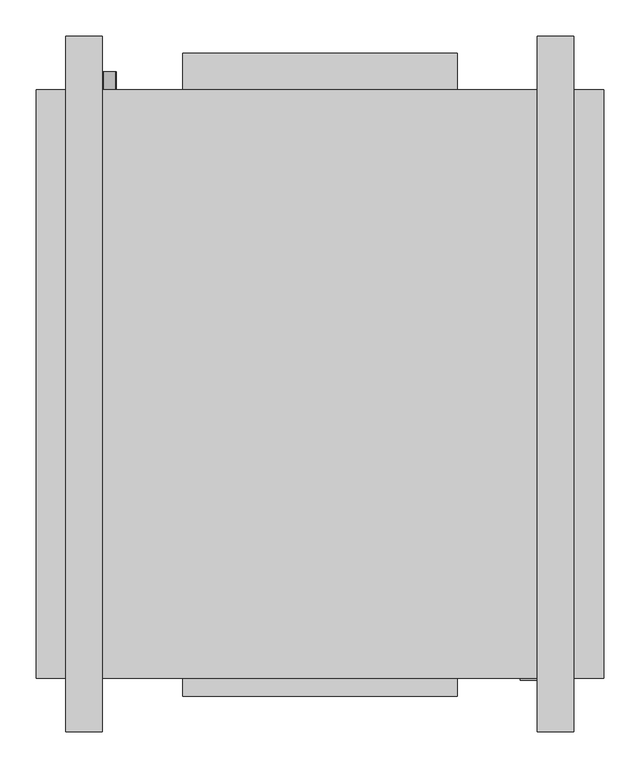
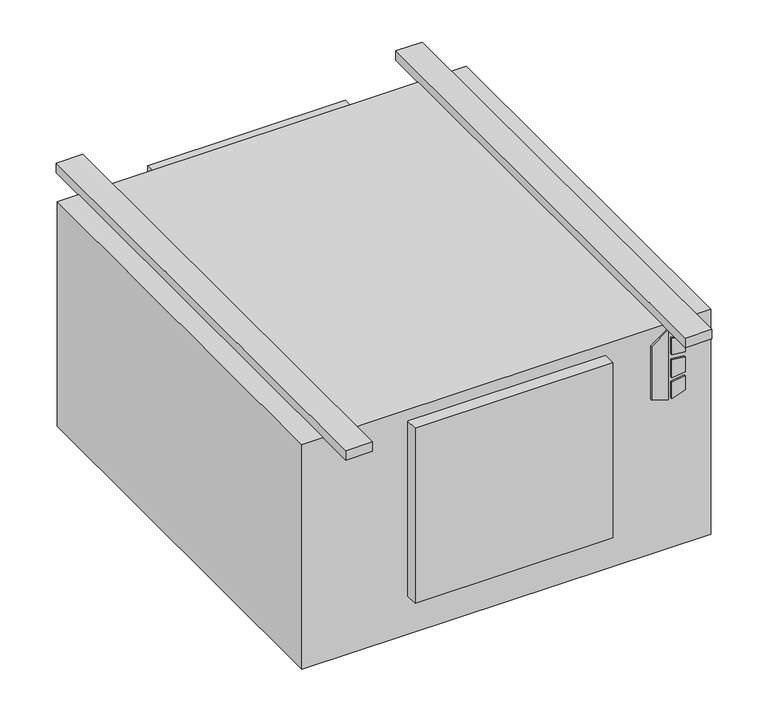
"""IFC4 building model written with IfcOpenShell, lengths in millimetres: proxy geometry, Concealed_High_Capacity_Horizontal_Cabinet_Fan_Coil_Unit_-_HXY_-_IEC_-_2-Pipe_Cool-EHeat_LH_2022 : Size 06 - 277v/60Hz/1Ph - 6 Row 4.0kW."""

from ifc_helpers import new_model, si_unit, point, frame, frame_2d, origin, origin_with_axes, place, context, project, spatial, polyline, circle_curve, trimmed, segment, composite_curve, outline, extrude, source, transform, mapped, element, save


def mechanical_equipment_0900cb2e(model_context):
    return source(origin(), model_context, "Body", "SweptSolid", [
        extrude(outline(polyline([(-142.4519297, 430.2868862), (-152.4, 462.4602728), (-10.2290756, 462.4602728), (-33.2510817, 430.2868862), (-142.4519297, 430.2868862)])), frame((0.0, -649.2875, 0.0), z_axis=(0.0, 1.0, 0.0), x_axis=(0.0, 0.0, 1.0)), (0.0, 0.0, 1.0), 3.175),
        extrude(outline(polyline([(-63.4526443, 469.2186058), (-66.6550368, 495.3), (-37.4261958, 495.3), (-29.3617807, 469.2186058), (-63.4526443, 469.2186058)])), frame((0.0, -649.2875, 0.0), z_axis=(0.0, 1.0, 0.0), x_axis=(0.0, 0.0, 1.0)), (0.0, 0.0, 1.0), 3.175),
        extrude(outline(polyline([(-115.3161712, 495.3), (-118.9816721, 469.2186058), (-152.4, 469.2186058), (-143.7657628, 495.3), (-115.3161712, 495.3)])), frame((0.0, -649.2875, 0.0), z_axis=(0.0, 1.0, 0.0), x_axis=(0.0, 0.0, 1.0)), (0.0, 0.0, 1.0), 3.175),
        extrude(outline(polyline([(-76.0010097, 495.3), (-73.7191834, 469.2186058), (-109.6567319, 469.2186058), (-106.9154669, 495.3), (-76.0010097, 495.3)])), frame((0.0, -649.2875, 0.0), z_axis=(0.0, 1.0, 0.0), x_axis=(0.0, 0.0, 1.0)), (0.0, 0.0, 1.0), 3.175),
        extrude(outline(composite_curve([segment(trimmed(circle_curve(frame_2d((-406.4, -139.7)), 9.525), [point((-406.4, -149.225))], [point((-406.4, -130.175))], False, "CARTESIAN"), True, "CONTINUOUS"), segment(trimmed(circle_curve(frame_2d((-406.4, -139.7)), 9.525), [point((-406.4, -130.175))], [point((-406.4, -149.225))], False, "CARTESIAN"), True, "CONTINUOUS")], self_intersect=False)), frame((0.0, 169.8625, 0.0), z_axis=(0.0, 1.0, 0.0), x_axis=(0.0, 0.0, 1.0)), (0.0, 0.0, 1.0), 25.4),
        extrude(outline(composite_curve([segment(trimmed(circle_curve(frame_2d((-330.2, -139.7)), 7.9375), [point((-330.2, -147.6375))], [point((-330.2, -131.7625))], False, "CARTESIAN"), True, "CONTINUOUS"), segment(trimmed(circle_curve(frame_2d((-330.2, -139.7)), 7.9375), [point((-330.2, -131.7625))], [point((-330.2, -147.6375))], False, "CARTESIAN"), True, "CONTINUOUS")], self_intersect=False)), frame((0.0, 169.8625, 0.0), z_axis=(0.0, 1.0, 0.0), x_axis=(0.0, 0.0, 1.0)), (0.0, 0.0, 1.0), 25.4),
        extrude(outline(composite_curve([segment(trimmed(circle_curve(frame_2d((-254.0, -139.7)), 7.9375), [point((-254.0, -147.6375))], [point((-254.0, -131.7625))], False, "CARTESIAN"), True, "CONTINUOUS"), segment(trimmed(circle_curve(frame_2d((-254.0, -139.7)), 7.9375), [point((-254.0, -131.7625))], [point((-254.0, -147.6375))], False, "CARTESIAN"), True, "CONTINUOUS")], self_intersect=False)), frame((0.0, 169.8625, 0.0), z_axis=(0.0, 1.0, 0.0), x_axis=(0.0, 0.0, 1.0)), (0.0, 0.0, 1.0), 25.4),
        extrude(outline(polyline([(546.1, 169.8625), (546.1, -646.1125), (-241.3, -646.1125), (-241.3, 169.8625), (546.1, 169.8625)])), frame((0.0, 0.0, -457.2), z_axis=(0.0, 0.0, 1.0), x_axis=(1.0, 0.0, 0.0)), (0.0, 0.0, 1.0), 457.2),
        extrude(outline(polyline([(-38.1, 220.6625), (342.9, 220.6625), (342.9, 169.8625), (-38.1, 169.8625), (-38.1, 220.6625)])), frame((0.0, 0.0, -377.825), z_axis=(0.0, 0.0, 1.0), x_axis=(1.0, 0.0, 0.0)), (0.0, 0.0, 1.0), 349.25),
        extrude(outline(polyline([(-149.225, 244.475), (-149.225, -720.725), (-200.025, -720.725), (-200.025, 244.475), (-149.225, 244.475)])), origin_with_axes(), (0.0, 0.0, 1.0), 19.05),
        extrude(outline(polyline([(504.825, 244.475), (504.825, -720.725), (454.025, -720.725), (454.025, 244.475), (504.825, 244.475)])), origin_with_axes(), (0.0, 0.0, 1.0), 19.05),
        extrude(outline(polyline([(342.9, -671.5125), (-38.1, -671.5125), (-38.1, -646.1125), (342.9, -646.1125), (342.9, -671.5125)])), frame((0.0, 0.0, -377.825), z_axis=(0.0, 0.0, 1.0), x_axis=(1.0, 0.0, 0.0)), (0.0, 0.0, 1.0), 355.6),
    ])


if __name__ == "__main__":
    model = new_model("IFC4")
    model_context = context("Model", 3, world=origin())
    ifc_project = project(units=[si_unit("LENGTHUNIT", "METRE", prefix="MILLI")], contexts=[model_context])
    site = spatial("IfcSite", under=ifc_project)
    building = spatial("IfcBuilding", under=site)
    placement = place(None, origin())
    mechanical_equipment_shape = mechanical_equipment_0900cb2e(model_context)
    element("IfcBuildingElementProxy", 1, Name="Concealed_High_Capacity_Horizontal_Cabinet_Fan_Coil_Unit_-_HXY_-_IEC_-_2-Pipe_Cool-EHeat_LH_2022 : Size 06 - 277v/60Hz/1Ph - 6 Row 4.0kW", ObjectType="Concealed_High_Capacity_Horizontal_Cabinet_Fan_Coil_Unit_-_HXY_-_IEC_-_2-Pipe_Cool-EHeat_LH_2022 : Size 06 - 277v/60Hz/1Ph - 6 Row 4.0kW", at=placement, inside=building, context=model_context, shape_type="MappedRepresentation", body=[
        mapped(mechanical_equipment_shape, transform((0.0, 0.0, 0.0), x_axis=(1.0, 0.0, 0.0), y_axis=(0.0, 1.0, 0.0), z_axis=(0.0, 0.0, 1.0))),
    ])
    save(model, "model.ifc")
